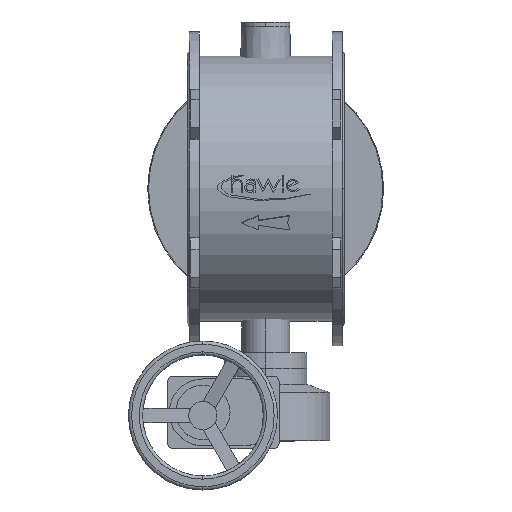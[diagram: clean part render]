
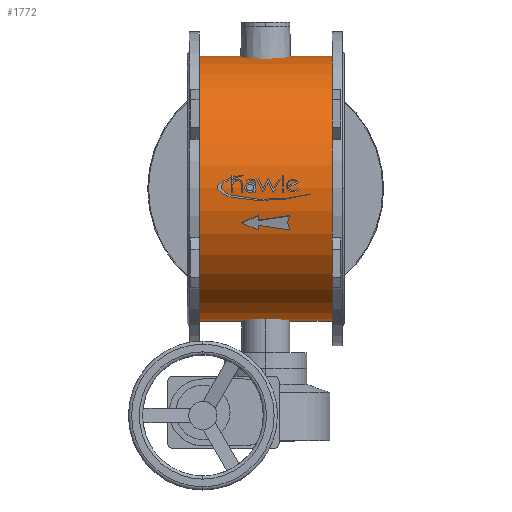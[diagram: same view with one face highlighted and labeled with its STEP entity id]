
A CAD part, top view. The second image highlights one B-rep face of the part: STEP entity #1772.
In plain terms, the highlighted cylindrical face has radius 329 mm (diameter 658 mm), a partial arc.
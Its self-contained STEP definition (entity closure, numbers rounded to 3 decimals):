
#1772=ADVANCED_FACE('',(#3368),#3369,.T.);
#3368=FACE_OUTER_BOUND('',#5171,.T.);
#3369=CYLINDRICAL_SURFACE('',#5172,329.0);
#5171=EDGE_LOOP('',(#8565,#8566,#8567,#8568));
#5172=AXIS2_PLACEMENT_3D('',#8569,#8570,#8571);
#8565=ORIENTED_EDGE('',*,*,#9913,.T.);
#8566=ORIENTED_EDGE('',*,*,#10894,.T.);
#8567=ORIENTED_EDGE('',*,*,#9915,.T.);
#8568=ORIENTED_EDGE('',*,*,#10803,.T.);
#8569=CARTESIAN_POINT('',(-360.0,0.,0.0));
#8570=DIRECTION('',(1.0,0.,0.0));
#8571=DIRECTION('',(0.,-1.0,0.0));
#9913=EDGE_CURVE('',#11755,#11756,#11757,.T.);
#9915=EDGE_CURVE('',#11760,#11758,#11761,.T.);
#10803=EDGE_CURVE('',#11758,#11755,#13029,.T.);
#10894=EDGE_CURVE('',#11756,#11760,#13137,.T.);
#11755=VERTEX_POINT('',#14163);
#11756=VERTEX_POINT('',#14164);
#11757=LINE('',#14165,#14166);
#11758=VERTEX_POINT('',#14167);
#11760=VERTEX_POINT('',#14169);
#11761=LINE('',#14170,#14171);
#13029=CIRCLE('',#15800,329.0);
#13137=CIRCLE('',#15934,329.0);
#14163=CARTESIAN_POINT('',(-360.0,-329.0,0.0));
#14164=CARTESIAN_POINT('',(-30.0,-329.0,0.0));
#14165=CARTESIAN_POINT('',(-360.0,-329.0,0.));
#14166=VECTOR('',#16774,1.0);
#14167=CARTESIAN_POINT('',(-360.0,329.0,0.));
#14169=CARTESIAN_POINT('',(-30.0,329.0,0.));
#14170=CARTESIAN_POINT('',(-360.0,329.0,0.));
#14171=VECTOR('',#16778,1.0);
#15800=AXIS2_PLACEMENT_3D('',#17920,#17921,#17922);
#15934=AXIS2_PLACEMENT_3D('',#18003,#18004,#18005);
#16774=DIRECTION('',(1.0,0.,0.0));
#16778=DIRECTION('',(-1.0,0.,-0.0));
#17920=CARTESIAN_POINT('',(-360.0,0.,0.0));
#17921=DIRECTION('',(1.0,0.,0.0));
#17922=DIRECTION('',(0.,-1.0,0.0));
#18003=CARTESIAN_POINT('',(-30.0,0.,0.0));
#18004=DIRECTION('',(-1.0,0.,0.0));
#18005=DIRECTION('',(0.,-1.0,0.0));
